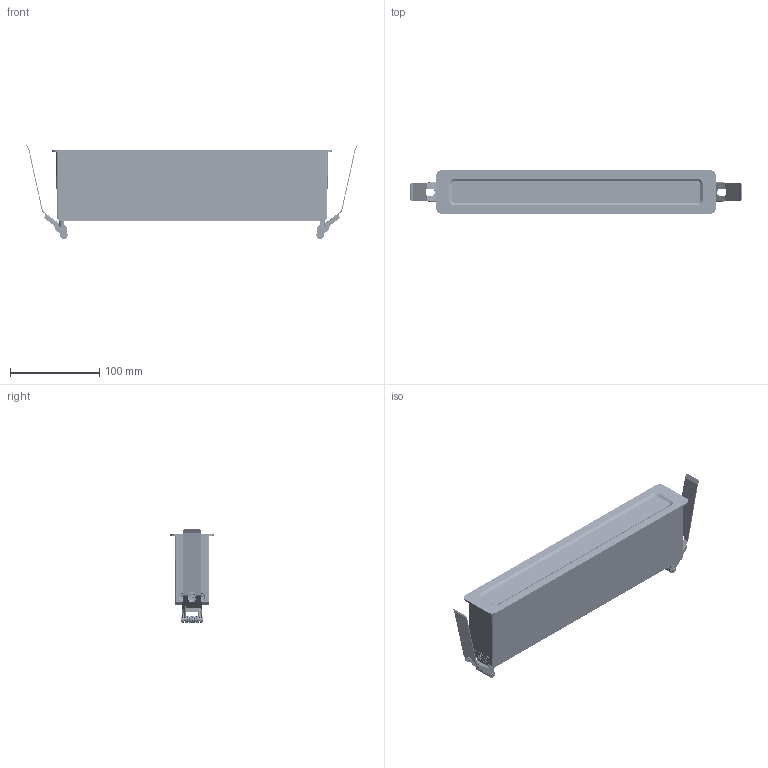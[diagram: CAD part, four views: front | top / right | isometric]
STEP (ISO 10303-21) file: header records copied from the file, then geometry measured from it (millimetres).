
FILE_DESCRIPTION(/* description */ (''),/* implementation_level */ '2;1');
FILE_NAME(/* name */ 'Darcy 12 Cells Assembly - Rec.stp',/* time_stamp */ '2026-02-19T10:55:05+11:00',/* author */ ('Mlight'),/* organization */ (''),/* preprocessor_version */ 'ST-DEVELOPER v20',/* originating_system */ 'Autodesk Inventor 2024',/* authorisation */ '');
FILE_SCHEMA (('AUTOMOTIVE_DESIGN { 1 0 10303 214 3 1 1 }'));
Products named in the file (27): Evelo X 12 Cell SM Darcy; Evelo X Plastic Internal Body Darcy; DARCY Board Assembly with Weld Clip; Ledil Darcy PCB; C18696; LED Board 2000 A0; AS 1427 - M3 x 6; Heyco Snap In Liquid Tight Bushing 4014; Air Vent RSV-M12 1.5; Air Vent RSV-M12 1.5_1; DARCY-4x1; Copy (1) of C19683_DARCY-SHD_004_MechanicalModel_001; Copy (1) of Mechanical-LENS; Copy (2) of Mechanical-LENS; Copy (3) of Mechanical-LENS; Copy (4) of Mechanical-LENS; Evelo X Aluminium End Cap; Evelo X Heat Sink Toshine Revision; AS 1427 - M4 x 12; Evelo X Gasket; AS 1427 - M4 x 10; Evelo Modular SM Outer Body; Custom Spring Assembly; Custom Spring Holder; Custom Spring Leg; Pin; Spring
Assembly tree (66 placements, depth 3):
  Evelo X 12 Cell SM Darcy
    Evelo X Plastic Internal Body Darcy
    DARCY Board Assembly with Weld Clip
      Ledil Darcy PCB
      C18696  x12
      LED Board 2000 A0  x6
    AS 1427 - M3 x 6  x6
    Heyco Snap In Liquid Tight Bushing 4014
    Air Vent RSV-M12 1.5  x2
    Air Vent RSV-M12 1.5_1  x2
    DARCY-4x1  x3
      Copy (1) of C19683_DARCY-SHD_004_MechanicalModel_001
      Copy (1) of Mechanical-LENS
      Copy (2) of Mechanical-LENS
      Copy (3) of Mechanical-LENS
      Copy (4) of Mechanical-LENS
    Evelo X Aluminium End Cap  x2
    Evelo X Heat Sink Toshine Revision
    AS 1427 - M4 x 12  x8
    Evelo X Gasket  x2
    AS 1427 - M4 x 10  x6
    Evelo Modular SM Outer Body
    Custom Spring Assembly  x2
      Custom Spring Holder
      Custom Spring Leg
      Pin
      Spring
Bounding box: 372.79 x 48.89 x 105.83 mm (x, y, z)
Volume: 443386 mm3; surface area: 377097.3 mm2
Topology: 74 solids, 74 shells, 8859 faces, 22952 edges, 14157 vertices
Faces by surface type: bspline 3593, plane 1917, cylinder 1224, cone 1086, torus 856, sphere 183
Full cylindrical faces by diameter (mm): 0.75 x4, 1.1 x6, 1.5 x8, 1.6 x6, 2.1 x3, 2.693 x6, 2.8 x2, 3 x14, 3.2 x6, 3.242 x6, 3.55 x4, 3.571 x14, 4 x15, 4.5 x18, 4.8 x4, 5 x4, 7 x14, 10 x4, 19.5 x1
Entity records: 167357 total; most frequent: CARTESIAN_POINT 95413, ORIENTED_EDGE 15696, DIRECTION 13502, EDGE_CURVE 7848, AXIS2_PLACEMENT_3D 5633, VERTEX_POINT 4802, EDGE_LOOP 3244, FACE_OUTER_BOUND 3093
